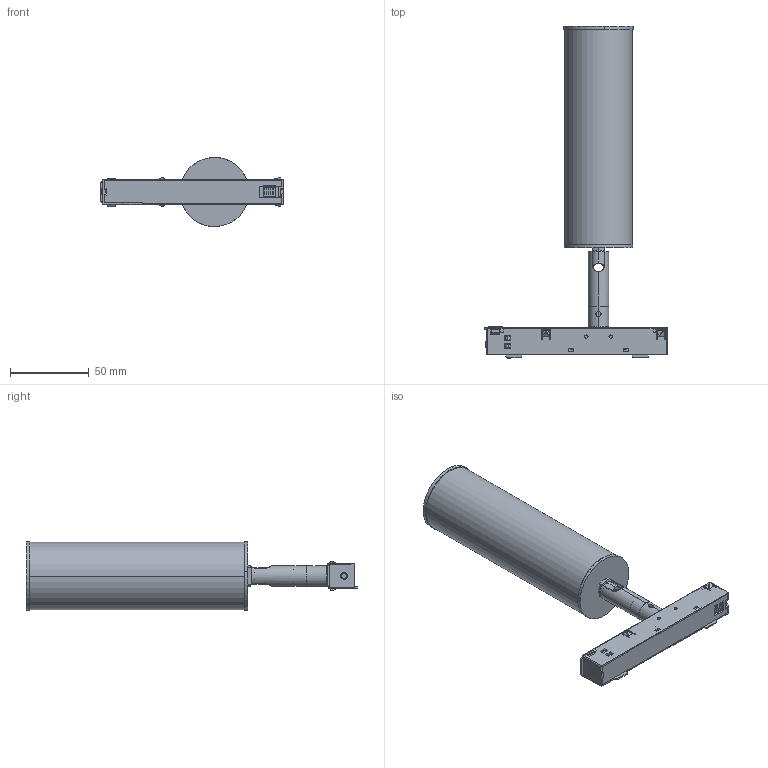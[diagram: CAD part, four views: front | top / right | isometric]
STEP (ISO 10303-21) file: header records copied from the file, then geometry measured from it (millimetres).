
FILE_DESCRIPTION (( 'STEP AP214' ), '1' );
FILE_NAME ('TURA_1313_tracklight.STEP', '2025-09-19T07:39:56', ( '' ), ( '' ), 'SwSTEP 2.0', 'SolidWorks 2018', '' );
FILE_SCHEMA (( 'AUTOMOTIVE_DESIGN' ));
Length unit declared in the file: millimetre
Products named in the file (1): TURA_1313_tracklight
Bounding box: 116.1 x 210.59 x 43.8 mm (x, y, z)
Surface area: 142997.1 mm2 (no closed solid volume)
Topology: 0 solids, 49 shells, 2150 faces, 5899 edges, 3853 vertices
Faces by surface type: plane 1460, cylinder 393, bspline 136, cone 109, torus 36, sphere 16
Entity records: 106524 total; most frequent: CARTESIAN_POINT 30741, ORIENTED_EDGE 11750, DIRECTION 9154, EDGE_CURVE 5881, VERTEX_POINT 3853, LINE 3294, VECTOR 3294, AXIS2_PLACEMENT_3D 2930
